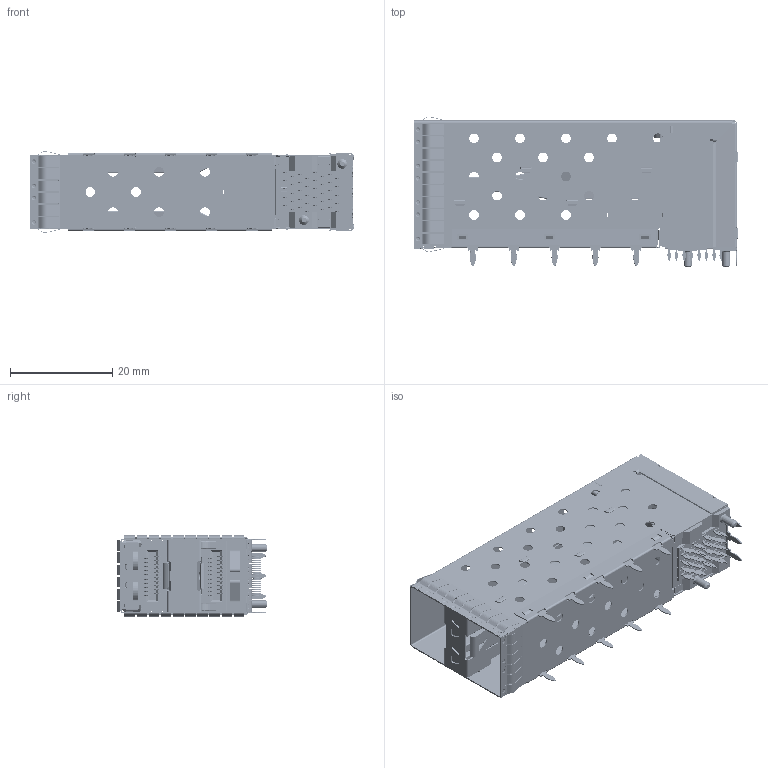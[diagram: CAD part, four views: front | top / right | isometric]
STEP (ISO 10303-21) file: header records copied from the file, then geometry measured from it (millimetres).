
FILE_DESCRIPTION (( 'STEP AP214' ), '1' );
FILE_NAME ('SSA0-0001310100-0000-X.STEP', '2021-05-04T09:05:32', ( '' ), ( '' ), 'SwSTEP 2.0', 'SolidWorks 2012', '' );
FILE_SCHEMA (( 'AUTOMOTIVE_DESIGN' ));
Length unit declared in the file: inch
Products named in the file (1): SSA0-0001310100-0000-X
Bounding box: 63.5 x 29.5 x 16 mm (x, y, z)
Volume: 5377.5 mm3; surface area: 25258.1 mm2
Topology: 187 solids, 187 shells, 8133 faces, 22911 edges, 15082 vertices
Faces by surface type: plane 5016, cylinder 2746, bspline 359, cone 12
Entity records: 381651 total; most frequent: CARTESIAN_POINT 61126, ORIENTED_EDGE 45814, DIRECTION 42818, EDGE_CURVE 22907, VECTOR 16634, LINE 16634, VERTEX_POINT 15082, AXIS2_PLACEMENT_3D 13092
